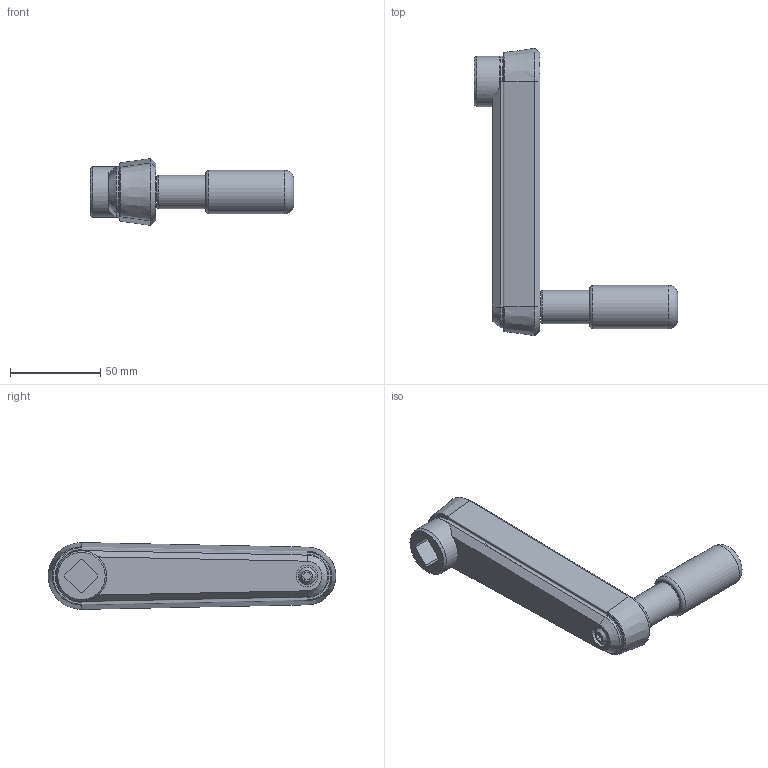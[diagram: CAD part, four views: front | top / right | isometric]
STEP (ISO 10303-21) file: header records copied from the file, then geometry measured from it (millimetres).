
FILE_DESCRIPTION( ( 'STEP AP203' ), '1' );
FILE_NAME( 'C:/Temp/Ganter_Step_05_03_2020/data/1_3/gn_472_3/Cranked handle with retractable handle GN 472.3-125-V14-SR (activated).stp', '2020-03-05T10:46:05', ( 'License CC BY-ND 4.0' ), ( 'CADENAS' ), ' ', 'PARTsolutions', ' ' );
FILE_SCHEMA( ( 'CONFIG_CONTROL_DESIGN' ) );
Length unit declared in the file: millimetre
Products named in the file (3): Cranked handle with retractable handle GN 472.3-125-V14-SR (activated); _Cranked handle with retractable handle GN 472.3-125-V14-SR (90)-1; _Cranked handle with retractable handle GN 472.3-125-V14-SR (90)-2
Assembly tree (2 placements, depth 2):
  Cranked handle with retractable handle GN 472.3-125-V14-SR (activated)
    _Cranked handle with retractable handle GN 472.3-125-V14-SR (90)-1
    _Cranked handle with retractable handle GN 472.3-125-V14-SR (90)-2
Bounding box: 113 x 159.5 x 37 mm (x, y, z)
Volume: 94782 mm3; surface area: 34395.3 mm2
Topology: 2 solids, 3 shells, 101 faces, 244 edges, 159 vertices
Faces by surface type: plane 52, cylinder 25, torus 11, cone 10, bspline 2, sphere 1
Full cylindrical faces by diameter (mm): 3 x2, 7.9 x1, 8 x1, 11 x1, 12 x1, 18.5 x1, 20 x2, 20.02 x1, 24 x1, 28 x1
Entity records: 3025 total; most frequent: CARTESIAN_POINT 677, DIRECTION 465, ORIENTED_EDGE 432, EDGE_CURVE 216, AXIS2_PLACEMENT_3D 182, VERTEX_POINT 152, EDGE_LOOP 135, FACE_OUTER_BOUND 118
